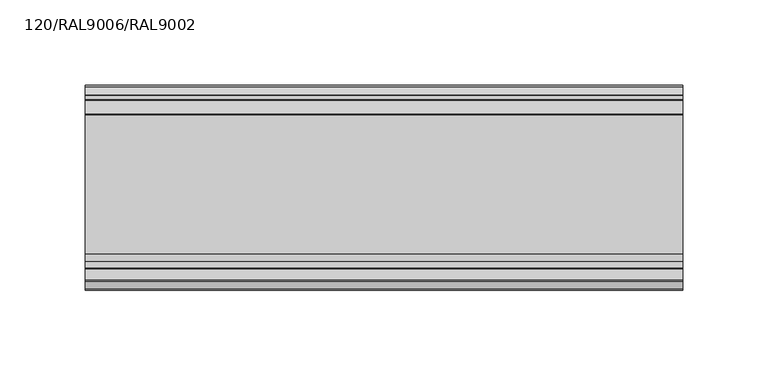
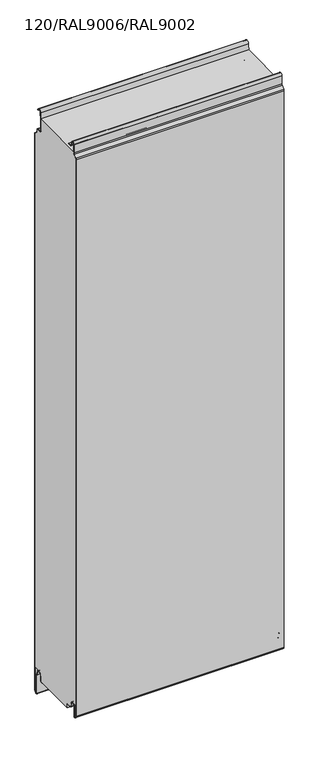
"""IFC4 building model written with IfcOpenShell, lengths in millimetres: plate geometry, TR_C_H_FHL_Panel : 120/RAL9006/RAL9002."""

import ifcopenshell
import ifcopenshell.guid

model = None  # the IFC model being written
_history = None  # IfcOwnerHistory: only IFC2X3 demands one
_inside = {}  # id of a spatial element -> (the spatial element, [elements in it])
_under = {}  # id of a project, library or spatial element -> (it, [spatial elements below it])
_declared = {}  # id of a project -> (the project, [libraries it declares])
_typed = {}  # id of a type object -> (the type object, [elements of that type])
_made_of = {}  # id of a material, layer set ... -> (it, [elements and type objects made of it])


def new_model(schema):
    """Start an empty IFC model of exactly this schema.

    Asked for "IFC4X3", IfcOpenShell would pick the latest addendum, in which some entities
    have other attributes; the version numbers below select the first issue.
    IFC2X3 requires an IfcOwnerHistory on every rooted entity: one is made here for all.
    """
    global model, _history
    if schema == "IFC4X3":
        model = ifcopenshell.file(schema_version=(4, 3, 0, 0))
    else:
        model = ifcopenshell.file(schema=schema)
    _inside.clear()
    _under.clear()
    _declared.clear()
    _typed.clear()
    _made_of.clear()
    _history = None
    if model.schema == "IFC2X3":
        org = make("IfcOrganization", Name="unknown")
        user = make(
            "IfcPersonAndOrganization",
            ThePerson=make("IfcPerson", FamilyName="unknown"),
            TheOrganization=org,
        )
        app = make(
            "IfcApplication",
            ApplicationDeveloper=org,
            Version="unknown",
            ApplicationFullName="unknown",
            ApplicationIdentifier="unknown",
        )
        _history = make(
            "IfcOwnerHistory",
            OwningUser=user,
            OwningApplication=app,
            ChangeAction="ADDED",
            CreationDate=0,
        )
    return model


def make(cls, **values):
    """One entity of the class cls with the attributes given. An attribute that is None is left unset."""
    return model.create_entity(
        cls, **{name: value for name, value in values.items() if value is not None}
    )


def rooted(cls, **values):
    """An entity with a GlobalId (a new one), such as an element, a storey or a relation."""
    return make(cls, GlobalId=ifcopenshell.guid.new(), OwnerHistory=_history, **values)


def si_unit(unit_type, name, prefix=None):
    """IfcSIUnit, for example si_unit("LENGTHUNIT", "METRE", prefix="MILLI")."""
    return make("IfcSIUnit", UnitType=unit_type, Prefix=prefix, Name=name)


def assignment(units):
    """IfcUnitAssignment: the units of a project."""
    return None if units is None else make("IfcUnitAssignment", Units=units)


def point(xyz):
    """IfcCartesianPoint."""
    return None if xyz is None else make("IfcCartesianPoint", Coordinates=xyz)


def direction(xyz):
    """IfcDirection."""
    return None if xyz is None else make("IfcDirection", DirectionRatios=xyz)


def frame(location, z_axis=None, x_axis=None):
    """IfcAxis2Placement3D, a coordinate frame: its origin and axes. An axis left out is left unset."""
    return make(
        "IfcAxis2Placement3D",
        Location=point(location),
        Axis=direction(z_axis),
        RefDirection=direction(x_axis),
    )


def frame_2d(location, x_axis=None):
    """IfcAxis2Placement2D, a coordinate frame in the plane: its origin and x axis."""
    return make(
        "IfcAxis2Placement2D", Location=point(location), RefDirection=direction(x_axis)
    )


def origin():
    """The frame at (0, 0, 0) with its axes left unset."""
    return frame((0.0, 0.0, 0.0))


def place(relative_to, where):
    """IfcLocalPlacement: puts the frame where relative to a parent placement (None: the world)."""
    return make(
        "IfcLocalPlacement", PlacementRelTo=relative_to, RelativePlacement=where
    )


def context(
    kind, dimensions, precision=None, world=None, true_north=None, identifier=None
):
    """IfcGeometricRepresentationContext, for example the 3D "Model" context."""
    return make(
        "IfcGeometricRepresentationContext",
        ContextIdentifier=identifier,
        ContextType=kind,
        CoordinateSpaceDimension=dimensions,
        Precision=precision,
        WorldCoordinateSystem=world,
        TrueNorth=true_north,
    )


def project(units=None, contexts=None):
    """IfcProject with its units and contexts."""
    return rooted(
        "IfcProject",
        Name="project",
        RepresentationContexts=contexts,
        UnitsInContext=assignment(units),
    )


def spatial(cls, under=None, at=None, **own):
    """A site, building, storey or space (cls), placed at a placement, below another one or the project."""
    s = rooted(cls, ObjectPlacement=at, **own)
    if under is not None:
        _under.setdefault(under.id(), (under, []))[1].append(s)
    return s


def polyline(points):
    """IfcPolyline through the points."""
    return make("IfcPolyline", Points=[point(p) for p in points])


def circle_curve(where, radius):
    """IfcCircle in the frame where."""
    return make("IfcCircle", Position=where, Radius=radius)


def trimmed(basis, trim1, trim2, sense, master):
    """IfcTrimmedCurve: the piece of a basis curve between two trims."""
    return make(
        "IfcTrimmedCurve",
        BasisCurve=basis,
        Trim1=trim1,
        Trim2=trim2,
        SenseAgreement=sense,
        MasterRepresentation=master,
    )


def segment(curve, same_sense, transition):
    """IfcCompositeCurveSegment."""
    return make(
        "IfcCompositeCurveSegment",
        Transition=transition,
        SameSense=same_sense,
        ParentCurve=curve,
    )


def composite_curve(segments, self_intersect=None):
    """IfcCompositeCurve: segments joined end to end."""
    return make("IfcCompositeCurve", Segments=segments, SelfIntersect=self_intersect)


def outline(outer, holes=None, kind="AREA"):
    """IfcArbitraryClosedProfileDef: a profile drawn as a closed curve; with holes, ...WithVoids."""
    if holes is None:
        return make("IfcArbitraryClosedProfileDef", ProfileType=kind, OuterCurve=outer)
    return make(
        "IfcArbitraryProfileDefWithVoids",
        ProfileType=kind,
        OuterCurve=outer,
        InnerCurves=holes,
    )


def extrude(swept, where, along, depth):
    """IfcExtrudedAreaSolid: the profile swept, set in the frame where, extruded along a direction by depth."""
    return make(
        "IfcExtrudedAreaSolid",
        SweptArea=swept,
        Position=where,
        ExtrudedDirection=direction(along),
        Depth=depth,
    )


def shape(context_of_items, identifier, shape_type, items):
    """IfcShapeRepresentation: the items that make up one representation, for example the "Body"."""
    return make(
        "IfcShapeRepresentation",
        ContextOfItems=context_of_items,
        RepresentationIdentifier=identifier,
        RepresentationType=shape_type,
        Items=items,
    )


def source(mapping_origin, context_of_items, identifier, shape_type, items):
    """IfcRepresentationMap: a shape defined once, which mapped items show again and again."""
    return make(
        "IfcRepresentationMap",
        MappingOrigin=mapping_origin,
        MappedRepresentation=shape(context_of_items, identifier, shape_type, items),
    )


def transform(
    local_origin,
    x_axis=None,
    y_axis=None,
    z_axis=None,
    scale=None,
    scale2=None,
    scale3=None,
    uniform=True,
):
    """IfcCartesianTransformationOperator3D, or its non-uniform kind. x_axis, y_axis, z_axis: its Axis1, 2, 3."""
    if uniform:
        return make(
            "IfcCartesianTransformationOperator3D",
            Axis1=direction(x_axis),
            Axis2=direction(y_axis),
            LocalOrigin=point(local_origin),
            Scale=scale,
            Axis3=direction(z_axis),
        )
    return make(
        "IfcCartesianTransformationOperator3DnonUniform",
        Axis1=direction(x_axis),
        Axis2=direction(y_axis),
        LocalOrigin=point(local_origin),
        Scale=scale,
        Axis3=direction(z_axis),
        Scale2=scale2,
        Scale3=scale3,
    )


def mapped(mapping_source, mapping_target):
    """IfcMappedItem: shows the shape of a source again, moved by a transform."""
    return make(
        "IfcMappedItem", MappingSource=mapping_source, MappingTarget=mapping_target
    )


def made_of(thing, what):
    """Note that an element or type object is made of a material, layer set ...; save() writes the relation."""
    if what is not None:
        _made_of.setdefault(what.id(), (what, []))[1].append(thing)
    return thing


def element(
    cls,
    number,
    at=None,
    inside=None,
    cuts=None,
    type_object=None,
    material=None,
    context=None,
    identifier="Body",
    shape_type=None,
    held_by="IfcProductDefinitionShape",
    body=None,
    shapes=None,
    **own,
):
    """One element of the class cls, such as IfcWall. Its Tag is "e" and its number.

    at: its placement. inside: the storey or other place that contains it. cuts: it is an
    opening in that element (IfcRelVoidsElement). A single representation is given by context,
    identifier, shape_type and body (its items); several are given by shapes. held_by: the class
    of the entity that holds the representations. save() writes the other relations.
    """
    e = rooted(cls, Tag="e%d" % number, ObjectPlacement=at, **own)
    if body is not None:
        shapes = [shape(context, identifier, shape_type, body)]
    if shapes is not None:
        e.Representation = make(held_by, Representations=shapes)
    if inside is not None:
        _inside.setdefault(inside.id(), (inside, []))[1].append(e)
    if cuts is not None:
        rooted(
            "IfcRelVoidsElement", RelatingBuildingElement=cuts, RelatedOpeningElement=e
        )
    if type_object is not None:
        _typed.setdefault(type_object.id(), (type_object, []))[1].append(e)
    return made_of(e, material)


def aggregate(whole, parts):
    """IfcRelAggregates: a whole, such as a stair, and the parts it consists of."""
    return rooted("IfcRelAggregates", RelatingObject=whole, RelatedObjects=parts)


def save(model, path):
    """Write the relations noted so far, then the file.

    IfcRelAggregates (storeys below a building ...), IfcRelContainedInSpatialStructure (elements
    in a storey), IfcRelDefinesByType, IfcRelAssociatesMaterial and IfcRelDeclares: one each for
    every whole, place, type object, material and project.
    """
    for whole, parts in _under.values():
        aggregate(whole, parts)
    for where, things in _inside.values():
        rooted(
            "IfcRelContainedInSpatialStructure",
            RelatedElements=things,
            RelatingStructure=where,
        )
    for kind, things in _typed.values():
        rooted("IfcRelDefinesByType", RelatedObjects=things, RelatingType=kind)
    for what, things in _made_of.values():
        rooted("IfcRelAssociatesMaterial", RelatedObjects=things, RelatingMaterial=what)
    for by, libraries in _declared.values():
        rooted("IfcRelDeclares", RelatingContext=by, RelatedDefinitions=libraries)
    model.write(path)


def plate_120_ral9006_ral9002_b45e4908(model_context):
    return source(origin(), model_context, "Body", "SweptSolid", [
        extrude(outline(composite_curve([segment(polyline([(-17.4455763, 1000.0), (-17.6, 998.2349288), (-17.6, 979.1)]), True, "CONTINUOUS"), segment(trimmed(circle_curve(frame_2d((-14.8, 979.1)), 2.8), [point((-17.6, 979.1))], [point((-14.8, 976.3))], True, "CARTESIAN"), True, "CONTINUOUS"), segment(polyline([(-14.8, 976.3), (-8.9, 976.3)]), True, "CONTINUOUS"), segment(trimmed(circle_curve(frame_2d((-8.9, 974.4)), 1.9), [point((-8.9, 976.3))], [point((-7.0, 974.4))], False, "CARTESIAN"), True, "CONTINUOUS"), segment(polyline([(-7.0, 974.4), (-7.0, 971.5838835)]), True, "CONTINUOUS"), segment(trimmed(circle_curve(frame_2d((-4.2, 971.5838835)), 2.8), [point((-7.0, 971.5838835))], [point((-6.179899, 969.6039845))], True, "CARTESIAN"), True, "CONTINUOUS"), segment(polyline([(-6.179899, 969.6039845), (-1.3564971, 964.7805826)]), True, "CONTINUOUS"), segment(trimmed(circle_curve(frame_2d((-2.7, 963.4370797)), 1.9), [point((-1.3564971, 964.7805826))], [point((-0.8, 963.4370797))], False, "CARTESIAN"), True, "CONTINUOUS"), segment(polyline([(-0.8, 963.4370797), (-0.8, 15.9993484), (-12.3520294, 15.9993484)]), True, "CONTINUOUS"), segment(trimmed(circle_curve(frame_2d((-12.3520294, 11.0993484)), 4.9), [point((-12.3520294, 15.9993484))], [point((-17.2333835, 11.5264116))], True, "CARTESIAN"), True, "CONTINUOUS"), segment(polyline([(-17.2333835, 11.5264116), (-18.0972969, 1.6518352)]), True, "CONTINUOUS"), segment(trimmed(circle_curve(frame_2d((-19.7908279, 1.8)), 1.7), [point((-18.0972969, 1.6518352))], [point((-19.7908279, 0.1))], False, "CARTESIAN"), True, "CONTINUOUS"), segment(polyline([(-19.7908279, 0.1), (-20.8, 0.0), (-94.86, 0.0), (-94.86, 7.9), (-102.3925589, 7.9)]), True, "CONTINUOUS"), segment(trimmed(circle_curve(frame_2d((-102.3925589, 10.85)), 2.95), [point((-102.3925589, 7.9))], [point((-105.2977418, 10.3377379))], False, "CARTESIAN"), True, "CONTINUOUS"), segment(polyline([(-105.2977418, 10.3377379), (-106.364567, 16.3880048)]), True, "CONTINUOUS"), segment(trimmed(circle_curve(frame_2d((-110.55, 15.65)), 4.25), [point((-106.364567, 16.3880048))], [point((-110.55, 19.9))], True, "CARTESIAN"), True, "CONTINUOUS"), segment(polyline([(-110.55, 19.9), (-119.2, 19.9), (-119.2, 989.8218254)]), True, "CONTINUOUS"), segment(trimmed(circle_curve(frame_2d((-117.0, 989.8218254)), 2.2), [point((-119.2, 989.8218254))], [point((-118.5556349, 991.3774603))], False, "CARTESIAN"), True, "CONTINUOUS"), segment(polyline([(-118.5556349, 991.3774603), (-114.1665476, 995.7665476)]), True, "CONTINUOUS"), segment(trimmed(circle_curve(frame_2d((-116.5, 998.1)), 3.3), [point((-114.1665476, 995.7665476))], [point((-113.2, 998.1))], True, "CARTESIAN"), True, "CONTINUOUS"), segment(polyline([(-113.2, 998.1), (-113.2, 1000.0), (-17.4455763, 1000.0)]), True, "CONTINUOUS")], self_intersect=False)), frame((-110.0, 0.0, 0.0), z_axis=(1.0, 0.0, 0.0), x_axis=(0.0, 1.0, 0.0)), (0.0, 0.0, 1.0), 350.0),
        extrude(outline(composite_curve([segment(polyline([(-0.8, -25.1006169), (-0.8, 963.4370797)]), True, "CONTINUOUS"), segment(trimmed(circle_curve(frame_2d((-2.7, 963.4370797)), 1.9), [point((-0.8, 963.4370797))], [point((-1.3564971, 964.7805826))], True, "CARTESIAN"), True, "CONTINUOUS"), segment(polyline([(-1.3564971, 964.7805826), (-6.179899, 969.6039845)]), True, "CONTINUOUS"), segment(trimmed(circle_curve(frame_2d((-4.2, 971.5838835)), 2.8), [point((-6.179899, 969.6039845))], [point((-7.0, 971.5838835))], False, "CARTESIAN"), True, "CONTINUOUS"), segment(polyline([(-7.0, 971.5838835), (-7.0, 974.4)]), True, "CONTINUOUS"), segment(trimmed(circle_curve(frame_2d((-8.9, 974.4)), 1.9), [point((-7.0, 974.4))], [point((-8.9, 976.3))], True, "CARTESIAN"), True, "CONTINUOUS"), segment(polyline([(-8.9, 976.3), (-14.8, 976.3)]), True, "CONTINUOUS"), segment(trimmed(circle_curve(frame_2d((-14.8, 979.1)), 2.8), [point((-14.8, 976.3))], [point((-17.6, 979.1))], False, "CARTESIAN"), True, "CONTINUOUS"), segment(polyline([(-17.6, 979.1), (-17.6, 998.2349288), (-16.5051936, 1010.748623)]), True, "CONTINUOUS"), segment(trimmed(circle_curve(frame_2d((-12.5204148, 1010.4)), 4.0), [point((-16.5051936, 1010.748623))], [point((-8.7383405, 1011.7022726))], False, "CARTESIAN"), True, "CONTINUOUS"), segment(polyline([(-8.7383405, 1011.7022726), (-8.4287263, 1010.8030877), (-9.1851412, 1010.5426332), (-9.4947554, 1011.4418181)]), True, "CONTINUOUS"), segment(trimmed(circle_curve(frame_2d((-12.5204148, 1010.4)), 3.2), [point((-9.4947554, 1011.4418181))], [point((-15.7082379, 1010.6788984))], True, "CARTESIAN"), True, "CONTINUOUS"), segment(polyline([(-15.7082379, 1010.6788984), (-16.8, 998.2), (-16.8, 979.1)]), True, "CONTINUOUS"), segment(trimmed(circle_curve(frame_2d((-14.8, 979.1)), 2.0), [point((-16.8, 979.1))], [point((-14.8, 977.1))], True, "CARTESIAN"), True, "CONTINUOUS"), segment(polyline([(-14.8, 977.1), (-8.9, 977.1)]), True, "CONTINUOUS"), segment(trimmed(circle_curve(frame_2d((-8.9, 974.4)), 2.7), [point((-8.9, 977.1))], [point((-6.2, 974.4))], False, "CARTESIAN"), True, "CONTINUOUS"), segment(polyline([(-6.2, 974.4), (-6.2, 971.5838835)]), True, "CONTINUOUS"), segment(trimmed(circle_curve(frame_2d((-4.2, 971.5838835)), 2.0), [point((-6.2, 971.5838835))], [point((-5.6142136, 970.1696699))], True, "CARTESIAN"), True, "CONTINUOUS"), segment(polyline([(-5.6142136, 970.1696699), (-0.7908117, 965.346268)]), True, "CONTINUOUS"), segment(trimmed(circle_curve(frame_2d((-2.7, 963.4370797)), 2.7), [point((-0.7908117, 965.346268))], [point((0.0, 963.4370797))], False, "CARTESIAN"), True, "CONTINUOUS"), segment(polyline([(0.0, 963.4370797), (0.0, -25.1006169)]), True, "CONTINUOUS"), segment(trimmed(circle_curve(frame_2d((-2.7, -25.1006169)), 2.7), [point((0.0, -25.1006169))], [point((-0.8586044, -27.0752719))], False, "CARTESIAN"), True, "CONTINUOUS"), segment(polyline([(-0.8586044, -27.0752719), (-2.8042031, -28.889572)]), True, "CONTINUOUS"), segment(trimmed(circle_curve(frame_2d((-4.1, -27.5)), 1.9), [point((-2.8042031, -28.889572))], [point((-6.0, -27.5))], False, "CARTESIAN"), True, "CONTINUOUS"), segment(polyline([(-6.0, -27.5), (-6.0, 4.8267282)]), True, "CONTINUOUS"), segment(trimmed(circle_curve(frame_2d((-8.5, 4.8267282)), 2.5), [point((-6.0, 4.8267282))], [point((-6.1362036, 5.6406486))], True, "CARTESIAN"), True, "CONTINUOUS"), segment(polyline([(-6.1362036, 5.6406486), (-8.4754033, 12.4341779)]), True, "CONTINUOUS"), segment(trimmed(circle_curve(frame_2d((-12.3520294, 11.0993484)), 4.1), [point((-8.4754033, 12.4341779))], [point((-16.4364277, 11.456687))], True, "CARTESIAN"), True, "CONTINUOUS"), segment(polyline([(-16.4364277, 11.456687), (-17.3003412, 1.5821106)]), True, "CONTINUOUS"), segment(trimmed(circle_curve(frame_2d((-19.7908279, 1.8)), 2.5), [point((-17.3003412, 1.5821106))], [point((-19.7908279, -0.7))], False, "CARTESIAN"), True, "CONTINUOUS"), segment(polyline([(-19.7908279, -0.7), (-20.8, -0.7), (-20.8, 0.1), (-19.7908279, 0.1)]), True, "CONTINUOUS"), segment(trimmed(circle_curve(frame_2d((-19.7908279, 1.8)), 1.7), [point((-19.7908279, 0.1))], [point((-18.0972969, 1.6518352))], True, "CARTESIAN"), True, "CONTINUOUS"), segment(polyline([(-18.0972969, 1.6518352), (-17.2333835, 11.5264116)]), True, "CONTINUOUS"), segment(trimmed(circle_curve(frame_2d((-12.3520294, 11.0993484)), 4.9), [point((-17.2333835, 11.5264116))], [point((-7.7189884, 12.6946324))], False, "CARTESIAN"), True, "CONTINUOUS"), segment(polyline([(-7.7189884, 12.6946324), (-5.3797887, 5.9011031)]), True, "CONTINUOUS"), segment(trimmed(circle_curve(frame_2d((-8.5, 4.8267282)), 3.3), [point((-5.3797887, 5.9011031))], [point((-5.2, 4.8267282))], False, "CARTESIAN"), True, "CONTINUOUS"), segment(polyline([(-5.2, 4.8267282), (-5.2, -27.5)]), True, "CONTINUOUS"), segment(trimmed(circle_curve(frame_2d((-4.1, -27.5)), 1.1), [point((-5.2, -27.5))], [point((-3.3498018, -28.3044891))], True, "CARTESIAN"), True, "CONTINUOUS"), segment(polyline([(-3.3498018, -28.3044891), (-1.4042031, -26.4901889)]), True, "CONTINUOUS"), segment(trimmed(circle_curve(frame_2d((-2.7, -25.1006169)), 1.9), [point((-1.4042031, -26.4901889))], [point((-0.8, -25.1006169))], True, "CARTESIAN"), True, "CONTINUOUS")], self_intersect=False)), frame((-110.0, 0.0, 0.0), z_axis=(1.0, 0.0, 0.0), x_axis=(0.0, 1.0, 0.0)), (0.0, 0.0, 1.0), 350.0),
        extrude(outline(composite_curve([segment(polyline([(-99.0, 7.1), (-102.3925589, 7.1)]), True, "CONTINUOUS"), segment(trimmed(circle_curve(frame_2d((-102.3925589, 10.85)), 3.75), [point((-102.3925589, 7.1))], [point((-106.085588, 10.1988193))], False, "CARTESIAN"), True, "CONTINUOUS"), segment(polyline([(-106.085588, 10.1988193), (-107.1524133, 16.2490862)]), True, "CONTINUOUS"), segment(trimmed(circle_curve(frame_2d((-110.55, 15.65)), 3.45), [point((-107.1524133, 16.2490862))], [point((-114.0, 15.65))], True, "CARTESIAN"), True, "CONTINUOUS"), segment(polyline([(-114.0, 15.65), (-114.0, -1.95)]), True, "CONTINUOUS"), segment(trimmed(circle_curve(frame_2d((-115.95, -1.95)), 1.95), [point((-114.0, -1.95))], [point((-117.3288582, -3.3288582))], False, "CARTESIAN"), True, "CONTINUOUS"), segment(polyline([(-117.3288582, -3.3288582), (-119.1945436, -1.4631728)]), True, "CONTINUOUS"), segment(trimmed(circle_curve(frame_2d((-117.25, 0.4813708)), 2.75), [point((-119.1945436, -1.4631728))], [point((-120.0, 0.4813708))], False, "CARTESIAN"), True, "CONTINUOUS"), segment(polyline([(-120.0, 0.4813708), (-120.0, 989.8218254)]), True, "CONTINUOUS"), segment(trimmed(circle_curve(frame_2d((-117.0, 989.8218254)), 3.0), [point((-120.0, 989.8218254))], [point((-119.1213203, 991.9431458))], False, "CARTESIAN"), True, "CONTINUOUS"), segment(polyline([(-119.1213203, 991.9431458), (-114.732233, 996.332233)]), True, "CONTINUOUS"), segment(trimmed(circle_curve(frame_2d((-116.5, 998.1)), 2.5), [point((-114.732233, 996.332233))], [point((-114.0, 998.1))], True, "CARTESIAN"), True, "CONTINUOUS"), segment(polyline([(-114.0, 998.1), (-114.0, 1012.85)]), True, "CONTINUOUS"), segment(trimmed(circle_curve(frame_2d((-110.75, 1012.85)), 3.25), [point((-114.0, 1012.85))], [point((-107.5493748, 1013.4143566))], False, "CARTESIAN"), True, "CONTINUOUS"), segment(polyline([(-107.5493748, 1013.4143566), (-106.8060618, 1009.1988193)]), True, "CONTINUOUS"), segment(trimmed(circle_curve(frame_2d((-103.1130328, 1009.85)), 3.75), [point((-106.8060618, 1009.1988193))], [point((-103.1130328, 1006.1))], True, "CARTESIAN"), True, "CONTINUOUS"), segment(polyline([(-103.1130328, 1006.1), (-99.0, 1006.1), (-99.0, 1005.3), (-103.1130328, 1005.3)]), True, "CONTINUOUS"), segment(trimmed(circle_curve(frame_2d((-103.1130328, 1009.85)), 4.55), [point((-103.1130328, 1005.3))], [point((-107.5939081, 1009.0599008))], False, "CARTESIAN"), True, "CONTINUOUS"), segment(polyline([(-107.5939081, 1009.0599008), (-108.337221, 1013.275438)]), True, "CONTINUOUS"), segment(trimmed(circle_curve(frame_2d((-110.75, 1012.85)), 2.45), [point((-108.337221, 1013.275438))], [point((-113.2, 1012.85))], True, "CARTESIAN"), True, "CONTINUOUS"), segment(polyline([(-113.2, 1012.85), (-113.2, 998.1)]), True, "CONTINUOUS"), segment(trimmed(circle_curve(frame_2d((-116.5, 998.1)), 3.3), [point((-113.2, 998.1))], [point((-114.1665476, 995.7665476))], False, "CARTESIAN"), True, "CONTINUOUS"), segment(polyline([(-114.1665476, 995.7665476), (-118.5556349, 991.3774603)]), True, "CONTINUOUS"), segment(trimmed(circle_curve(frame_2d((-117.0, 989.8218254)), 2.2), [point((-118.5556349, 991.3774603))], [point((-119.2, 989.8218254))], True, "CARTESIAN"), True, "CONTINUOUS"), segment(polyline([(-119.2, 989.8218254), (-119.2, 0.4813708)]), True, "CONTINUOUS"), segment(trimmed(circle_curve(frame_2d((-117.25, 0.4813708)), 1.95), [point((-119.2, 0.4813708))], [point((-118.6288582, -0.8974874))], True, "CARTESIAN"), True, "CONTINUOUS"), segment(polyline([(-118.6288582, -0.8974874), (-116.7631728, -2.7631728)]), True, "CONTINUOUS"), segment(trimmed(circle_curve(frame_2d((-115.95, -1.95)), 1.15), [point((-116.7631728, -2.7631728))], [point((-114.8, -1.95))], True, "CARTESIAN"), True, "CONTINUOUS"), segment(polyline([(-114.8, -1.95), (-114.8, 15.65)]), True, "CONTINUOUS"), segment(trimmed(circle_curve(frame_2d((-110.55, 15.65)), 4.25), [point((-114.8, 15.65))], [point((-106.364567, 16.3880048))], False, "CARTESIAN"), True, "CONTINUOUS"), segment(polyline([(-106.364567, 16.3880048), (-105.2977418, 10.3377379)]), True, "CONTINUOUS"), segment(trimmed(circle_curve(frame_2d((-102.3925589, 10.85)), 2.95), [point((-105.2977418, 10.3377379))], [point((-102.3925589, 7.9))], True, "CARTESIAN"), True, "CONTINUOUS"), segment(polyline([(-102.3925589, 7.9), (-99.0, 7.9), (-99.0, 7.1)]), True, "CONTINUOUS")], self_intersect=False)), frame((-110.0, 0.0, 0.0), z_axis=(1.0, 0.0, 0.0), x_axis=(0.0, 1.0, 0.0)), (0.0, 0.0, 1.0), 350.0),
    ])


if __name__ == "__main__":
    model = new_model("IFC4")
    model_context = context("Model", 3, world=origin())
    ifc_project = project(units=[si_unit("LENGTHUNIT", "METRE", prefix="MILLI")], contexts=[model_context])
    site = spatial("IfcSite", under=ifc_project)
    building = spatial("IfcBuilding", under=site)
    placement = place(None, origin())
    plate_120_ral9006_ral9002_shape = plate_120_ral9006_ral9002_b45e4908(model_context)
    element("IfcPlate", 1, ObjectType="TR_C_H_FHL_Panel : 120/RAL9006/RAL9002", at=placement, inside=building, context=model_context, shape_type="MappedRepresentation", body=[
        mapped(plate_120_ral9006_ral9002_shape, transform((0.0, 0.0, 0.0), x_axis=(1.0, 0.0, 0.0), y_axis=(0.0, 1.0, 0.0), z_axis=(0.0, 0.0, 1.0))),
    ])
    save(model, "model.ifc")
